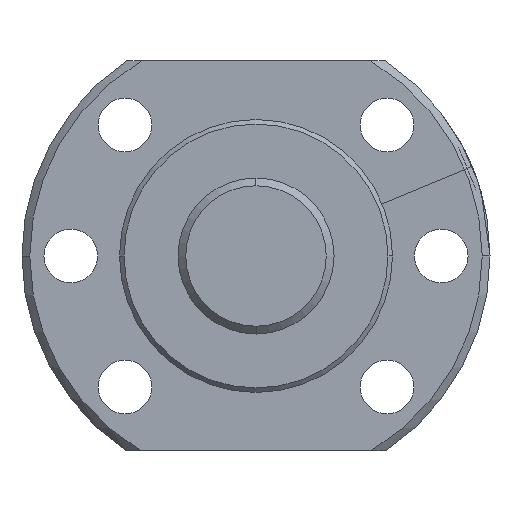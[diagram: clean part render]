
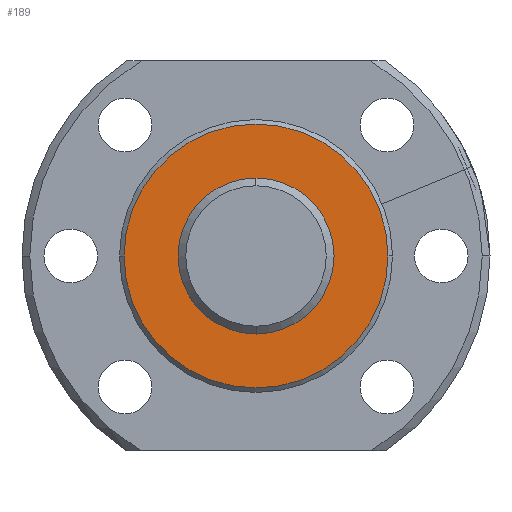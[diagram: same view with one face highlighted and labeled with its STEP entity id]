
A CAD part, left-side view. The second image highlights one B-rep face of the part: STEP entity #189.
In plain terms, the highlighted planar face has unit normal (-1, 0, 0).
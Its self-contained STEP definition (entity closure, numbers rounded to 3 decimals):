
#189 = ADVANCED_FACE( '', ( #345, #346 ), #347, .T. );
#345 = FACE_BOUND( '', #502, .T. );
#346 = FACE_OUTER_BOUND( '', #503, .T. );
#347 = PLANE( '', #504 );
#502 = EDGE_LOOP( '', ( #1009, #1010 ) );
#503 = EDGE_LOOP( '', ( #1011, #1012 ) );
#504 = AXIS2_PLACEMENT_3D( '', #1013, #1014, #1015 );
#1009 = ORIENTED_EDGE( '', *, *, #1159, .F. );
#1010 = ORIENTED_EDGE( '', *, *, #1085, .F. );
#1011 = ORIENTED_EDGE( '', *, *, #1057, .T. );
#1012 = ORIENTED_EDGE( '', *, *, #1170, .T. );
#1013 = CARTESIAN_POINT( '', ( 5., 10.767, 0. ) );
#1014 = DIRECTION( '', ( -1., 0., 0. ) );
#1015 = DIRECTION( '', ( 0., 1., 0. ) );
#1057 = EDGE_CURVE( '', #1234, #1238, #1240, .T. );
#1085 = EDGE_CURVE( '', #1290, #1286, #1292, .T. );
#1159 = EDGE_CURVE( '', #1286, #1290, #1413, .T. );
#1170 = EDGE_CURVE( '', #1238, #1234, #1424, .T. );
#1234 = VERTEX_POINT( '', #1502 );
#1238 = VERTEX_POINT( '', #1507 );
#1240 = CIRCLE( '', #1510, 13.533 );
#1286 = VERTEX_POINT( '', #1586 );
#1290 = VERTEX_POINT( '', #1591 );
#1292 = CIRCLE( '', #1594, 8. );
#1413 = CIRCLE( '', #1929, 8. );
#1424 = CIRCLE( '', #1940, 13.533 );
#1502 = CARTESIAN_POINT( '', ( 5., 13.533, 0. ) );
#1507 = CARTESIAN_POINT( '', ( 5., -13.533, 0. ) );
#1510 = AXIS2_PLACEMENT_3D( '', #2032, #2033, #2034 );
#1586 = CARTESIAN_POINT( '', ( 5., 8., 0. ) );
#1591 = CARTESIAN_POINT( '', ( 5., -8., 0. ) );
#1594 = AXIS2_PLACEMENT_3D( '', #2082, #2083, #2084 );
#1929 = AXIS2_PLACEMENT_3D( '', #2219, #2220, #2221 );
#1940 = AXIS2_PLACEMENT_3D( '', #2252, #2253, #2254 );
#2032 = CARTESIAN_POINT( '', ( 5., 0., 0. ) );
#2033 = DIRECTION( '', ( -1., 0., 0. ) );
#2034 = DIRECTION( '', ( 0., 1., 0. ) );
#2082 = CARTESIAN_POINT( '', ( 5., 0., 0. ) );
#2083 = DIRECTION( '', ( -1., 0., 0. ) );
#2084 = DIRECTION( '', ( 0., 1., 0. ) );
#2219 = CARTESIAN_POINT( '', ( 5., 0., 0. ) );
#2220 = DIRECTION( '', ( -1., 0., 0. ) );
#2221 = DIRECTION( '', ( 0., 1., 0. ) );
#2252 = CARTESIAN_POINT( '', ( 5., 0., 0. ) );
#2253 = DIRECTION( '', ( -1., 0., 0. ) );
#2254 = DIRECTION( '', ( 0., 1., 0. ) );
